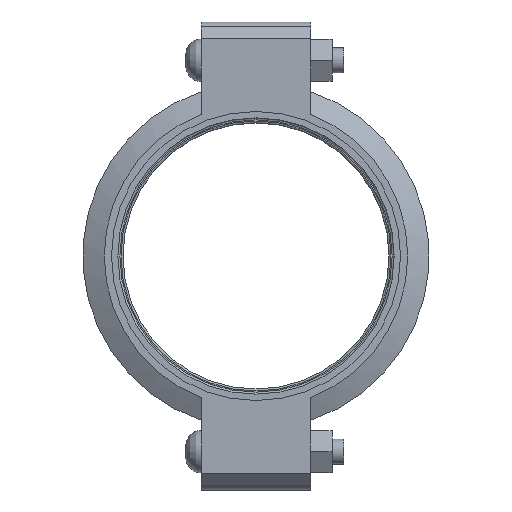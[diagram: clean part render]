
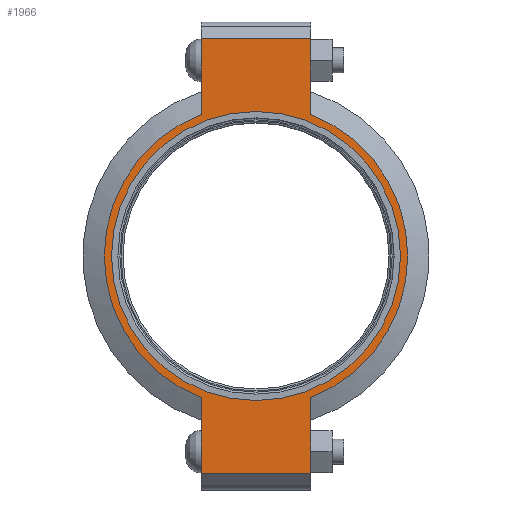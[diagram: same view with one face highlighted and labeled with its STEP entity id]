
A CAD part, left-side view. The second image highlights one B-rep face of the part: STEP entity #1966.
In plain terms, the highlighted planar face has unit normal (-1, 0, 0) as drawn and (0, 0, 1) by its records, which use the part's own axes.
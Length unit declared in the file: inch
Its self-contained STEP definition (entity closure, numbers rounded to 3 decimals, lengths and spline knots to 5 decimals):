
#128=LINE('',#3488,#225);
#136=LINE('',#3524,#233);
#143=LINE('',#3545,#240);
#152=LINE('',#3577,#249);
#153=LINE('',#3581,#250);
#154=LINE('',#3583,#251);
#225=VECTOR('',#2847,0.3937);
#233=VECTOR('',#2863,0.3937);
#240=VECTOR('',#2882,0.3937);
#249=VECTOR('',#2907,0.3937);
#250=VECTOR('',#2912,0.3937);
#251=VECTOR('',#2913,0.3937);
#308=FACE_BOUND('',#562,.T.);
#353=PLANE('',#2310);
#442=FACE_OUTER_BOUND('',#561,.T.);
#561=EDGE_LOOP('',(#1685,#1686,#1687,#1688,#1689,#1690,#1691,#1692));
#562=EDGE_LOOP('',(#1693));
#738=CIRCLE('',#2311,4.53);
#739=CIRCLE('',#2312,4.53);
#740=CIRCLE('',#2313,4.3125);
#906=VERTEX_POINT('',#3485);
#907=VERTEX_POINT('',#3487);
#918=VERTEX_POINT('',#3519);
#919=VERTEX_POINT('',#3523);
#926=VERTEX_POINT('',#3542);
#927=VERTEX_POINT('',#3544);
#937=VERTEX_POINT('',#3580);
#938=VERTEX_POINT('',#3582);
#939=VERTEX_POINT('',#3585);
#1155=EDGE_CURVE('',#907,#906,#128,.T.);
#1169=EDGE_CURVE('',#919,#918,#136,.T.);
#1179=EDGE_CURVE('',#927,#926,#143,.T.);
#1194=EDGE_CURVE('',#919,#906,#152,.T.);
#1195=EDGE_CURVE('',#918,#927,#738,.T.);
#1196=EDGE_CURVE('',#937,#926,#153,.T.);
#1197=EDGE_CURVE('',#937,#938,#154,.T.);
#1198=EDGE_CURVE('',#938,#907,#739,.T.);
#1199=EDGE_CURVE('',#939,#939,#740,.T.);
#1685=ORIENTED_EDGE('',*,*,#1194,.F.);
#1686=ORIENTED_EDGE('',*,*,#1169,.T.);
#1687=ORIENTED_EDGE('',*,*,#1195,.T.);
#1688=ORIENTED_EDGE('',*,*,#1179,.T.);
#1689=ORIENTED_EDGE('',*,*,#1196,.F.);
#1690=ORIENTED_EDGE('',*,*,#1197,.T.);
#1691=ORIENTED_EDGE('',*,*,#1198,.T.);
#1692=ORIENTED_EDGE('',*,*,#1155,.T.);
#1693=ORIENTED_EDGE('',*,*,#1199,.T.);
#1966=ADVANCED_FACE('',(#442,#308),#353,.T.);
#2310=AXIS2_PLACEMENT_3D('',#3578,#2908,#2909);
#2311=AXIS2_PLACEMENT_3D('',#3579,#2910,#2911);
#2312=AXIS2_PLACEMENT_3D('',#3584,#2914,#2915);
#2313=AXIS2_PLACEMENT_3D('',#3586,#2916,#2917);
#2847=DIRECTION('',(1.,0.,0.));
#2863=DIRECTION('',(-1.,0.,0.));
#2882=DIRECTION('',(-1.,0.,0.));
#2907=DIRECTION('',(0.,-1.,0.));
#2908=DIRECTION('center_axis',(0.,0.,1.));
#2909=DIRECTION('ref_axis',(-1.,0.,0.));
#2910=DIRECTION('center_axis',(0.,0.,1.));
#2911=DIRECTION('ref_axis',(1.,0.,0.));
#2912=DIRECTION('',(0.,1.,0.));
#2913=DIRECTION('',(1.,0.,0.));
#2914=DIRECTION('center_axis',(0.,0.,1.));
#2915=DIRECTION('ref_axis',(1.,0.,0.));
#2916=DIRECTION('center_axis',(0.,0.,-1.));
#2917=DIRECTION('ref_axis',(1.,0.,0.));
#3485=CARTESIAN_POINT('',(6.485,-1.63,1.16));
#3487=CARTESIAN_POINT('',(4.22658,-1.63,1.16));
#3488=CARTESIAN_POINT('',(6.985,-1.63,1.16));
#3519=CARTESIAN_POINT('',(4.22658,1.63,1.16));
#3523=CARTESIAN_POINT('',(6.485,1.63,1.16));
#3524=CARTESIAN_POINT('',(-6.985,1.63,1.16));
#3542=CARTESIAN_POINT('',(-6.485,1.63,1.16));
#3544=CARTESIAN_POINT('',(-4.22658,1.63,1.16));
#3545=CARTESIAN_POINT('',(-6.985,1.63,1.16));
#3577=CARTESIAN_POINT('',(6.485,-0.815,1.16));
#3578=CARTESIAN_POINT('Origin',(0.,0.,
1.16));
#3579=CARTESIAN_POINT('Origin',(0.,0.,1.16));
#3580=CARTESIAN_POINT('',(-6.485,-1.63,1.16));
#3581=CARTESIAN_POINT('',(-6.485,0.815,1.16));
#3582=CARTESIAN_POINT('',(-4.22658,-1.63,1.16));
#3583=CARTESIAN_POINT('',(6.985,-1.63,1.16));
#3584=CARTESIAN_POINT('Origin',(0.,0.,1.16));
#3585=CARTESIAN_POINT('',(-4.3125,0.,1.16));
#3586=CARTESIAN_POINT('Origin',(0.,0.,1.16));
